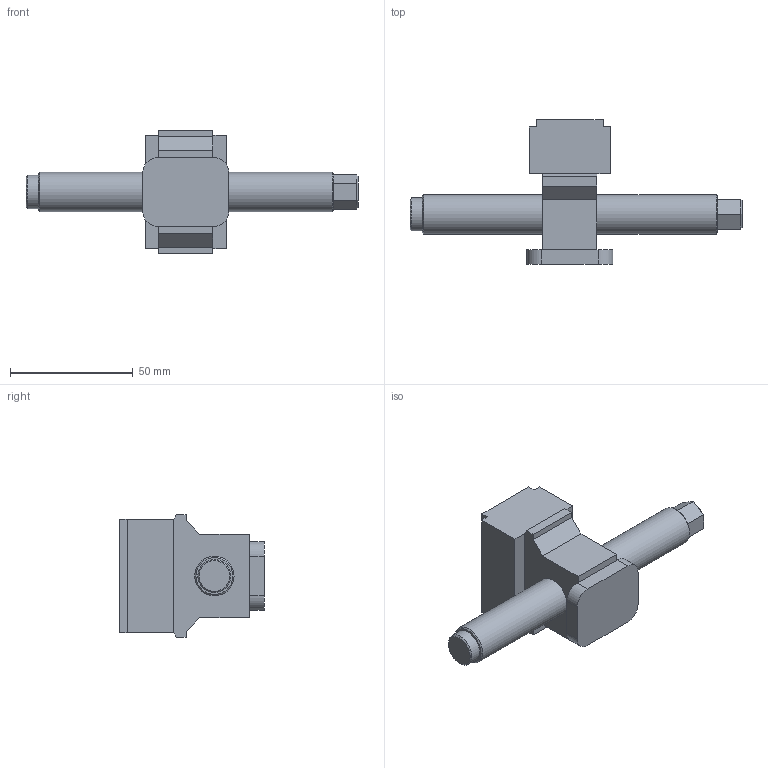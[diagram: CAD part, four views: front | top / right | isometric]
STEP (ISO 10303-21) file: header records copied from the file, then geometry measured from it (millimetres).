
FILE_DESCRIPTION (( 'STEP AP214' ), '1' );
FILE_NAME ('48120-TG4627.STEP', '2020-03-24T14:49:19', ( '' ), ( '' ), 'SwSTEP 2.0', 'SolidWorks 2019', '' );
FILE_SCHEMA (( 'AUTOMOTIVE_DESIGN' ));
Length unit declared in the file: millimetre
Products named in the file (1): 48120-TG4627
Bounding box: 135 x 58.8 x 50 mm (x, y, z)
Volume: 85101.2 mm3; surface area: 17165.8 mm2
Topology: 1 solids, 1 shells, 71 faces, 171 edges, 107 vertices
Faces by surface type: plane 61, cylinder 7, cone 3
Full cylindrical faces by diameter (mm): 13.5 x1, 16 x2
Entity records: 2506 total; most frequent: CARTESIAN_POINT 340, ORIENTED_EDGE 326, DIRECTION 324, EDGE_CURVE 163, VECTOR 146, LINE 146, VERTEX_POINT 105, AXIS2_PLACEMENT_3D 89
